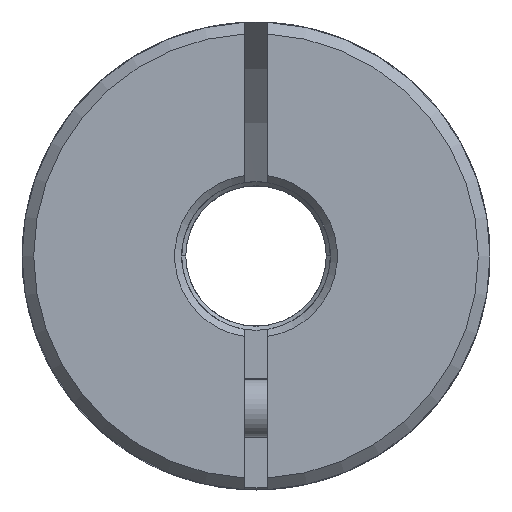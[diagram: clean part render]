
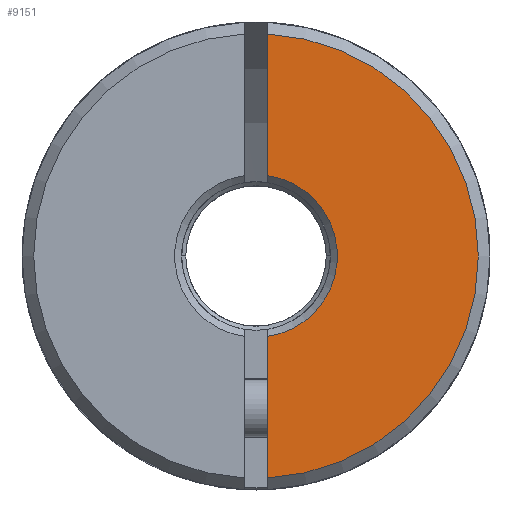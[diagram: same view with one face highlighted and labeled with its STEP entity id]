
A CAD part, front view. The second image highlights one B-rep face of the part: STEP entity #9151.
In plain terms, the highlighted planar face has unit normal (0, -1, 0).
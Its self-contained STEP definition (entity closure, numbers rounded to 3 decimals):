
#41 = CIRCLE ( 'NONE', #4467, 3.475 ) ;
#648 = VECTOR ( 'NONE', #2996, 1000. ) ;
#695 = FACE_OUTER_BOUND ( 'NONE', #6714, .T. ) ;
#727 = DIRECTION ( 'NONE',  ( 0., 1., 0. ) ) ;
#798 = CARTESIAN_POINT ( 'NONE',  ( 0.5, -33., 9.487 ) ) ;
#891 = ORIENTED_EDGE ( 'NONE', *, *, #2064, .T. ) ;
#1043 = DIRECTION ( 'NONE',  ( 0., 0., -1. ) ) ;
#1432 = CARTESIAN_POINT ( 'NONE',  ( 0.5, -33., -12.292 ) ) ;
#2064 = EDGE_CURVE ( 'NONE', #8224, #2126, #7009, .T. ) ;
#2126 = VERTEX_POINT ( 'NONE', #798 ) ;
#2411 = DIRECTION ( 'NONE',  ( 0., 0., -1. ) ) ;
#2606 = PLANE ( 'NONE',  #5384 ) ;
#2996 = DIRECTION ( 'NONE',  ( 0., 0., 1. ) ) ;
#3334 = AXIS2_PLACEMENT_3D ( 'NONE', #5284, #5979, #9137 ) ;
#3358 = CARTESIAN_POINT ( 'NONE',  ( 50., -33., -12.292 ) ) ;
#3603 = EDGE_CURVE ( 'NONE', #7805, #2126, #6384, .T. ) ;
#3685 = EDGE_CURVE ( 'NONE', #7805, #3965, #41, .T. ) ;
#3826 = DIRECTION ( 'NONE',  ( 0., 0., 1. ) ) ;
#3965 = VERTEX_POINT ( 'NONE', #6817 ) ;
#4185 = DIRECTION ( 'NONE',  ( 0., 1., 0. ) ) ;
#4467 = AXIS2_PLACEMENT_3D ( 'NONE', #9493, #727, #2411 ) ;
#4508 = CARTESIAN_POINT ( 'NONE',  ( 0.5, -33., 3.439 ) ) ;
#5284 = CARTESIAN_POINT ( 'NONE',  ( 0., -33., 0. ) ) ;
#5384 = AXIS2_PLACEMENT_3D ( 'NONE', #3358, #4185, #1043 ) ;
#5491 = CARTESIAN_POINT ( 'NONE',  ( 0.5, -33., -9.487 ) ) ;
#5979 = DIRECTION ( 'NONE',  ( 0., -1., 0. ) ) ;
#6129 = CARTESIAN_POINT ( 'NONE',  ( 0.5, -33., -12.292 ) ) ;
#6384 = LINE ( 'NONE', #6129, #648 ) ;
#6714 = EDGE_LOOP ( 'NONE', ( #7103, #891, #7074, #9149 ) ) ;
#6817 = CARTESIAN_POINT ( 'NONE',  ( 0.5, -33., -3.439 ) ) ;
#7009 = CIRCLE ( 'NONE', #3334, 9.5 ) ;
#7074 = ORIENTED_EDGE ( 'NONE', *, *, #3603, .F. ) ;
#7103 = ORIENTED_EDGE ( 'NONE', *, *, #9691, .F. ) ;
#7805 = VERTEX_POINT ( 'NONE', #4508 ) ;
#7887 = LINE ( 'NONE', #1432, #8625 ) ;
#8224 = VERTEX_POINT ( 'NONE', #5491 ) ;
#8625 = VECTOR ( 'NONE', #3826, 1000. ) ;
#9137 = DIRECTION ( 'NONE',  ( 0., 0., -1. ) ) ;
#9149 = ORIENTED_EDGE ( 'NONE', *, *, #3685, .T. ) ;
#9151 = ADVANCED_FACE ( 'NONE', ( #695 ), #2606, .F. ) ;
#9493 = CARTESIAN_POINT ( 'NONE',  ( 0., -33., 0. ) ) ;
#9691 = EDGE_CURVE ( 'NONE', #8224, #3965, #7887, .T. ) ;
